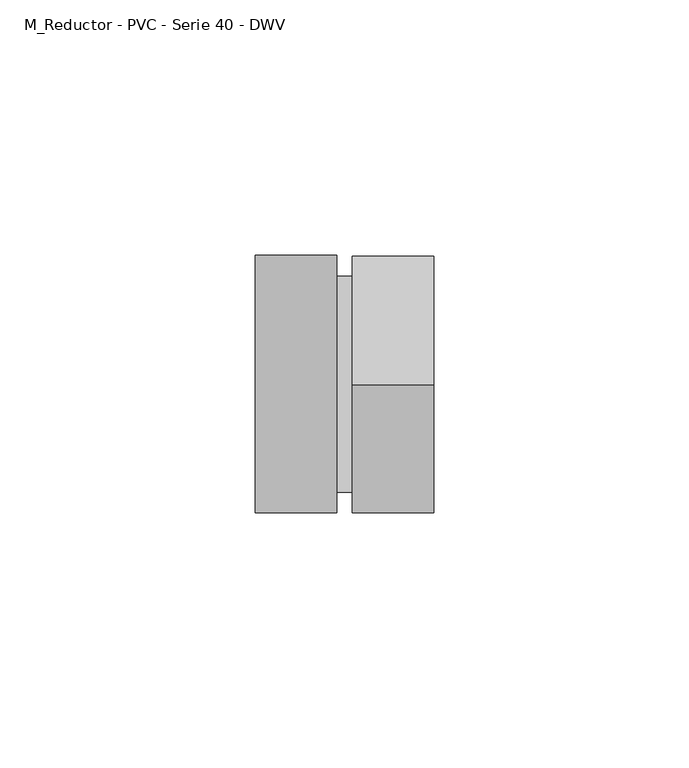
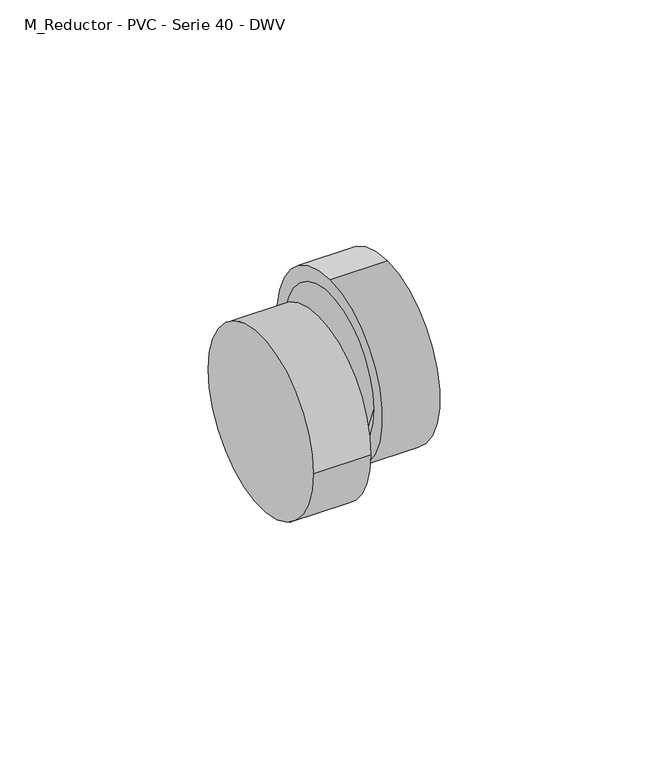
"""IFC4 building model written with IfcOpenShell, lengths in millimetres: pipe fitting geometry, M_Reductor - PVC - Serie 40 - DWV : Estándar."""

import ifcopenshell
import ifcopenshell.guid

model = None  # the IFC model being written
_history = None  # IfcOwnerHistory: only IFC2X3 demands one
_inside = {}  # id of a spatial element -> (the spatial element, [elements in it])
_under = {}  # id of a project, library or spatial element -> (it, [spatial elements below it])
_declared = {}  # id of a project -> (the project, [libraries it declares])
_typed = {}  # id of a type object -> (the type object, [elements of that type])
_made_of = {}  # id of a material, layer set ... -> (it, [elements and type objects made of it])


def new_model(schema):
    """Start an empty IFC model of exactly this schema.

    Asked for "IFC4X3", IfcOpenShell would pick the latest addendum, in which some entities
    have other attributes; the version numbers below select the first issue.
    IFC2X3 requires an IfcOwnerHistory on every rooted entity: one is made here for all.
    """
    global model, _history
    if schema == "IFC4X3":
        model = ifcopenshell.file(schema_version=(4, 3, 0, 0))
    else:
        model = ifcopenshell.file(schema=schema)
    _inside.clear()
    _under.clear()
    _declared.clear()
    _typed.clear()
    _made_of.clear()
    _history = None
    if model.schema == "IFC2X3":
        org = make("IfcOrganization", Name="unknown")
        user = make(
            "IfcPersonAndOrganization",
            ThePerson=make("IfcPerson", FamilyName="unknown"),
            TheOrganization=org,
        )
        app = make(
            "IfcApplication",
            ApplicationDeveloper=org,
            Version="unknown",
            ApplicationFullName="unknown",
            ApplicationIdentifier="unknown",
        )
        _history = make(
            "IfcOwnerHistory",
            OwningUser=user,
            OwningApplication=app,
            ChangeAction="ADDED",
            CreationDate=0,
        )
    return model


def make(cls, **values):
    """One entity of the class cls with the attributes given. An attribute that is None is left unset."""
    return model.create_entity(
        cls, **{name: value for name, value in values.items() if value is not None}
    )


def rooted(cls, **values):
    """An entity with a GlobalId (a new one), such as an element, a storey or a relation."""
    return make(cls, GlobalId=ifcopenshell.guid.new(), OwnerHistory=_history, **values)


def si_unit(unit_type, name, prefix=None):
    """IfcSIUnit, for example si_unit("LENGTHUNIT", "METRE", prefix="MILLI")."""
    return make("IfcSIUnit", UnitType=unit_type, Prefix=prefix, Name=name)


def assignment(units):
    """IfcUnitAssignment: the units of a project."""
    return None if units is None else make("IfcUnitAssignment", Units=units)


def point(xyz):
    """IfcCartesianPoint."""
    return None if xyz is None else make("IfcCartesianPoint", Coordinates=xyz)


def direction(xyz):
    """IfcDirection."""
    return None if xyz is None else make("IfcDirection", DirectionRatios=xyz)


def frame(location, z_axis=None, x_axis=None):
    """IfcAxis2Placement3D, a coordinate frame: its origin and axes. An axis left out is left unset."""
    return make(
        "IfcAxis2Placement3D",
        Location=point(location),
        Axis=direction(z_axis),
        RefDirection=direction(x_axis),
    )


def origin():
    """The frame at (0, 0, 0) with its axes left unset."""
    return frame((0.0, 0.0, 0.0))


def place(relative_to, where):
    """IfcLocalPlacement: puts the frame where relative to a parent placement (None: the world)."""
    return make(
        "IfcLocalPlacement", PlacementRelTo=relative_to, RelativePlacement=where
    )


def context(
    kind, dimensions, precision=None, world=None, true_north=None, identifier=None
):
    """IfcGeometricRepresentationContext, for example the 3D "Model" context."""
    return make(
        "IfcGeometricRepresentationContext",
        ContextIdentifier=identifier,
        ContextType=kind,
        CoordinateSpaceDimension=dimensions,
        Precision=precision,
        WorldCoordinateSystem=world,
        TrueNorth=true_north,
    )


def project(units=None, contexts=None):
    """IfcProject with its units and contexts."""
    return rooted(
        "IfcProject",
        Name="project",
        RepresentationContexts=contexts,
        UnitsInContext=assignment(units),
    )


def spatial(cls, under=None, at=None, **own):
    """A site, building, storey or space (cls), placed at a placement, below another one or the project."""
    s = rooted(cls, ObjectPlacement=at, **own)
    if under is not None:
        _under.setdefault(under.id(), (under, []))[1].append(s)
    return s


def circle_curve(where, radius):
    """IfcCircle in the frame where."""
    return make("IfcCircle", Position=where, Radius=radius)


def trimmed(basis, trim1, trim2, sense, master):
    """IfcTrimmedCurve: the piece of a basis curve between two trims."""
    return make(
        "IfcTrimmedCurve",
        BasisCurve=basis,
        Trim1=trim1,
        Trim2=trim2,
        SenseAgreement=sense,
        MasterRepresentation=master,
    )


def shape(context_of_items, identifier, shape_type, items):
    """IfcShapeRepresentation: the items that make up one representation, for example the "Body"."""
    return make(
        "IfcShapeRepresentation",
        ContextOfItems=context_of_items,
        RepresentationIdentifier=identifier,
        RepresentationType=shape_type,
        Items=items,
    )


def source(mapping_origin, context_of_items, identifier, shape_type, items):
    """IfcRepresentationMap: a shape defined once, which mapped items show again and again."""
    return make(
        "IfcRepresentationMap",
        MappingOrigin=mapping_origin,
        MappedRepresentation=shape(context_of_items, identifier, shape_type, items),
    )


def transform(
    local_origin,
    x_axis=None,
    y_axis=None,
    z_axis=None,
    scale=None,
    scale2=None,
    scale3=None,
    uniform=True,
):
    """IfcCartesianTransformationOperator3D, or its non-uniform kind. x_axis, y_axis, z_axis: its Axis1, 2, 3."""
    if uniform:
        return make(
            "IfcCartesianTransformationOperator3D",
            Axis1=direction(x_axis),
            Axis2=direction(y_axis),
            LocalOrigin=point(local_origin),
            Scale=scale,
            Axis3=direction(z_axis),
        )
    return make(
        "IfcCartesianTransformationOperator3DnonUniform",
        Axis1=direction(x_axis),
        Axis2=direction(y_axis),
        LocalOrigin=point(local_origin),
        Scale=scale,
        Axis3=direction(z_axis),
        Scale2=scale2,
        Scale3=scale3,
    )


def mapped(mapping_source, mapping_target):
    """IfcMappedItem: shows the shape of a source again, moved by a transform."""
    return make(
        "IfcMappedItem", MappingSource=mapping_source, MappingTarget=mapping_target
    )


def made_of(thing, what):
    """Note that an element or type object is made of a material, layer set ...; save() writes the relation."""
    if what is not None:
        _made_of.setdefault(what.id(), (what, []))[1].append(thing)
    return thing


def element(
    cls,
    number,
    at=None,
    inside=None,
    cuts=None,
    type_object=None,
    material=None,
    context=None,
    identifier="Body",
    shape_type=None,
    held_by="IfcProductDefinitionShape",
    body=None,
    shapes=None,
    **own,
):
    """One element of the class cls, such as IfcWall. Its Tag is "e" and its number.

    at: its placement. inside: the storey or other place that contains it. cuts: it is an
    opening in that element (IfcRelVoidsElement). A single representation is given by context,
    identifier, shape_type and body (its items); several are given by shapes. held_by: the class
    of the entity that holds the representations. save() writes the other relations.
    """
    e = rooted(cls, Tag="e%d" % number, ObjectPlacement=at, **own)
    if body is not None:
        shapes = [shape(context, identifier, shape_type, body)]
    if shapes is not None:
        e.Representation = make(held_by, Representations=shapes)
    if inside is not None:
        _inside.setdefault(inside.id(), (inside, []))[1].append(e)
    if cuts is not None:
        rooted(
            "IfcRelVoidsElement", RelatingBuildingElement=cuts, RelatedOpeningElement=e
        )
    if type_object is not None:
        _typed.setdefault(type_object.id(), (type_object, []))[1].append(e)
    return made_of(e, material)


def aggregate(whole, parts):
    """IfcRelAggregates: a whole, such as a stair, and the parts it consists of."""
    return rooted("IfcRelAggregates", RelatingObject=whole, RelatedObjects=parts)


def save(model, path):
    """Write the relations noted so far, then the file.

    IfcRelAggregates (storeys below a building ...), IfcRelContainedInSpatialStructure (elements
    in a storey), IfcRelDefinesByType, IfcRelAssociatesMaterial and IfcRelDeclares: one each for
    every whole, place, type object, material and project.
    """
    for whole, parts in _under.values():
        aggregate(whole, parts)
    for where, things in _inside.values():
        rooted(
            "IfcRelContainedInSpatialStructure",
            RelatedElements=things,
            RelatingStructure=where,
        )
    for kind, things in _typed.values():
        rooted("IfcRelDefinesByType", RelatedObjects=things, RelatingType=kind)
    for what, things in _made_of.values():
        rooted("IfcRelAssociatesMaterial", RelatedObjects=things, RelatingMaterial=what)
    for by, libraries in _declared.values():
        rooted("IfcRelDeclares", RelatingContext=by, RelatedDefinitions=libraries)
    model.write(path)


def plane_surface(at):
    """IfcPlane: the flat surface through the origin of the frame at, square to its z axis."""
    return make("IfcPlane", Position=at)


def cylinder_surface(at, radius):
    """IfcCylindricalSurface: all points at the distance radius from the z axis of the frame at."""
    return make("IfcCylindricalSurface", Position=at, Radius=radius)


def extruded_surface(curve, direction_of_extrusion, depth):
    """IfcSurfaceOfLinearExtrusion: the curve pushed along a direction by depth."""
    return make(
        "IfcSurfaceOfLinearExtrusion",
        SweptCurve=make("IfcArbitraryOpenProfileDef", ProfileType="CURVE", Curve=curve),
        ExtrudedDirection=direction(direction_of_extrusion),
        Depth=depth,
    )


def advanced_brep(points, edges, surfaces, faces):
    """IfcAdvancedBrep: a solid bounded by faces that lie on surfaces and meet in shared edges.

    An edge is (start, end): straight between two places in points (the first is 0);
    or (start, end, curve); or (start, end, curve, False) where it runs against its curve.
    A face is (place in surfaces, loops), or (place, loops, False) where it looks against
    its surface's normal. A loop lists edges by number (the first is 1), with a minus sign
    where the edge is run from its end to its start. The first loop is the outer one.
    """
    corners = [point(p) for p in points]
    vertices = [make("IfcVertexPoint", VertexGeometry=c) for c in corners]
    made = []
    for start, end, *more in edges:
        made.append(
            make(
                "IfcEdgeCurve",
                EdgeStart=vertices[start],
                EdgeEnd=vertices[end],
                EdgeGeometry=more[0] if more else make("IfcPolyline", Points=[corners[start], corners[end]]),
                SameSense=more[1] if len(more) > 1 else True,
            )
        )
    hull = []
    for where, loops, *sense in faces:
        bounds = []
        for j, loop in enumerate(loops):
            ring = [make("IfcOrientedEdge", EdgeElement=made[abs(k) - 1], Orientation=k > 0) for k in loop]
            bounds.append(
                make(
                    "IfcFaceOuterBound" if j == 0 else "IfcFaceBound",
                    Bound=make("IfcEdgeLoop", EdgeList=ring),
                    Orientation=True,
                )
            )
        hull.append(make("IfcAdvancedFace", Bounds=bounds, FaceSurface=surfaces[where], SameSense=sense[0] if sense else True))
    return make("IfcAdvancedBrep", Outer=make("IfcClosedShell", CfsFaces=hull))


def m_reductor_pvc_serie_40_dwv_3976a373(model_context):
    return source(origin(), model_context, "Body", "AdvancedBrep", [
        advanced_brep(
        [(0.0, -25.2671094, 0.0), (0.0, 25.2671094, 0.0), (16.0, -25.2671094, 0.0), (16.0, 25.2671094, 0.0), (16.0, 21.2040625, 0.0), (16.0, -21.2040625, 0.0), (19.0560938, 21.0900737, 9.6980606), (19.0560938, -21.3180513, 9.6980606), (19.0560938, -0.1139888, 34.96517), (19.0560938, -0.1139888, -15.5690488), (35.0560938, -0.1139888, 34.96517), (35.0560938, -0.1139888, -15.5690488)],
        [
            (0, 1, circle_curve(frame((0.0, 0.0, 0.0), z_axis=(-1.0, 0.0, 0.0), x_axis=(0.0, 1.0, 0.0)), 25.2671094)),
            (1, 0, circle_curve(frame((0.0, 0.0, 0.0), z_axis=(-1.0, 0.0, 0.0), x_axis=(0.0, 1.0, 0.0)), 25.2671094)),
            (2, 3, circle_curve(frame((16.0, 0.0, 0.0), z_axis=(1.0, 0.0, 0.0), x_axis=(0.0, 1.0, 0.0)), 25.2671094)),
            (3, 2, circle_curve(frame((16.0, 0.0, 0.0), z_axis=(1.0, 0.0, 0.0), x_axis=(0.0, 1.0, 0.0)), 25.2671094)),
            (4, 5, circle_curve(frame((16.0, 0.0, 0.0), z_axis=(-1.0, 0.0, 0.0), x_axis=(0.0, 1.0, 0.0)), 21.2040625)),
            (5, 4, circle_curve(frame((16.0, 0.0, 0.0), z_axis=(-1.0, 0.0, 0.0), x_axis=(0.0, 1.0, 0.0)), 21.2040625)),
            (0, 2),
            (3, 1),
            (4, 6),
            (6, 7, circle_curve(frame((19.0560938, -0.1139888, 9.6980606), z_axis=(-1.0, 0.0, 0.0), x_axis=(0.0, 1.0, 0.0)), 21.2040625)),
            (7, 5),
            (7, 6, circle_curve(frame((19.0560938, -0.1139888, 9.6980606), z_axis=(-1.0, 0.0, 0.0), x_axis=(0.0, 1.0, 0.0)), 21.2040625)),
            (8, 9, circle_curve(frame((19.0560938, -0.1139888, 9.6980606), z_axis=(-1.0, 0.0, 0.0), x_axis=(0.0, 0.0, -1.0)), 25.2671094)),
            (9, 8, circle_curve(frame((19.0560938, -0.1139888, 9.6980606), z_axis=(-1.0, 0.0, 0.0), x_axis=(0.0, 0.0, -1.0)), 25.2671094)),
            (10, 11, circle_curve(frame((35.0560938, -0.1139888, 9.6980606), z_axis=(1.0, 0.0, 0.0), x_axis=(0.0, 0.0, -1.0)), 25.2671094)),
            (11, 10, circle_curve(frame((35.0560938, -0.1139888, 9.6980606), z_axis=(1.0, 0.0, 0.0), x_axis=(0.0, 0.0, -1.0)), 25.2671094)),
            (8, 10),
            (11, 9),
        ],
        [
            plane_surface(frame((0.0, 0.0, 0.0), z_axis=(-1.0, 0.0, 0.0), x_axis=(0.0, 0.0, 1.0))),
            plane_surface(frame((16.0, 0.0, 0.0), z_axis=(1.0, 0.0, 0.0), x_axis=(0.0, 0.0, 1.0))),
            cylinder_surface(frame((0.0, 0.0, 0.0), z_axis=(-1.0, 0.0, 0.0), x_axis=(0.0, 1.0, 0.0)), 25.2671094),
            extruded_surface(trimmed(circle_curve(frame((16.0, 0.0, 0.0), z_axis=(1.0, 0.0, 0.0), x_axis=(0.0, 1.0, 0.0)), 21.2040625), [point((16.0, -21.2040625, 0.0))], [point((16.0, 21.2040625, 0.0))], True, "CARTESIAN"), (3.0560937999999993, -0.1139888, 9.6980606), 10.168828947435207),
            extruded_surface(trimmed(circle_curve(frame((16.0, 0.0, 0.0), z_axis=(1.0, 0.0, 0.0), x_axis=(0.0, 1.0, 0.0)), 21.2040625), [point((16.0, 21.2040625, 0.0))], [point((16.0, -21.2040625, 0.0))], True, "CARTESIAN"), (3.0560937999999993, -0.1139888, 9.6980606), 10.168828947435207),
            plane_surface(frame((19.0560938, -0.1139888, 9.6980606), z_axis=(-1.0, 0.0, 0.0), x_axis=(0.0, 1.0, 0.0))),
            plane_surface(frame((35.0560938, -0.1139888, 9.6980606), z_axis=(1.0, 0.0, 0.0), x_axis=(0.0, 1.0, 0.0))),
            cylinder_surface(frame((19.0560938, -0.1139888, 9.6980606), z_axis=(-1.0, 0.0, 0.0), x_axis=(0.0, 0.0, -1.0)), 25.2671094),
        ],
        [
            (0, [[1, 2]]),
            (1, [[3, 4], [5, 6]]),
            (2, [[-1, 7, -4, 8]]),
            (2, [[-2, -8, -3, -7]]),
            (3, [[9, 10, 11, -5]]),
            (4, [[-9, -6, -11, 12]]),
            (5, [[13, 14], [-10, -12]]),
            (6, [[15, 16]]),
            (7, [[-13, 17, -16, 18]]),
            (7, [[-14, -18, -15, -17]]),
        ],
    ),
    ])


if __name__ == "__main__":
    model = new_model("IFC4")
    model_context = context("Model", 3, world=origin())
    ifc_project = project(units=[si_unit("LENGTHUNIT", "METRE", prefix="MILLI")], contexts=[model_context])
    site = spatial("IfcSite", under=ifc_project)
    building = spatial("IfcBuilding", under=site)
    placement = place(None, origin())
    m_reductor_pvc_serie_40_dwv_shape = m_reductor_pvc_serie_40_dwv_3976a373(model_context)
    element("IfcPipeFitting", 1, ObjectType="M_Reductor - PVC - Serie 40 - DWV : Estándar", at=placement, inside=building, context=model_context, shape_type="MappedRepresentation", body=[
        mapped(m_reductor_pvc_serie_40_dwv_shape, transform((0.0, 0.0, 0.0), x_axis=(1.0, 0.0, 0.0), y_axis=(0.0, 1.0, 0.0), z_axis=(0.0, 0.0, 1.0))),
    ])
    save(model, "model.ifc")
